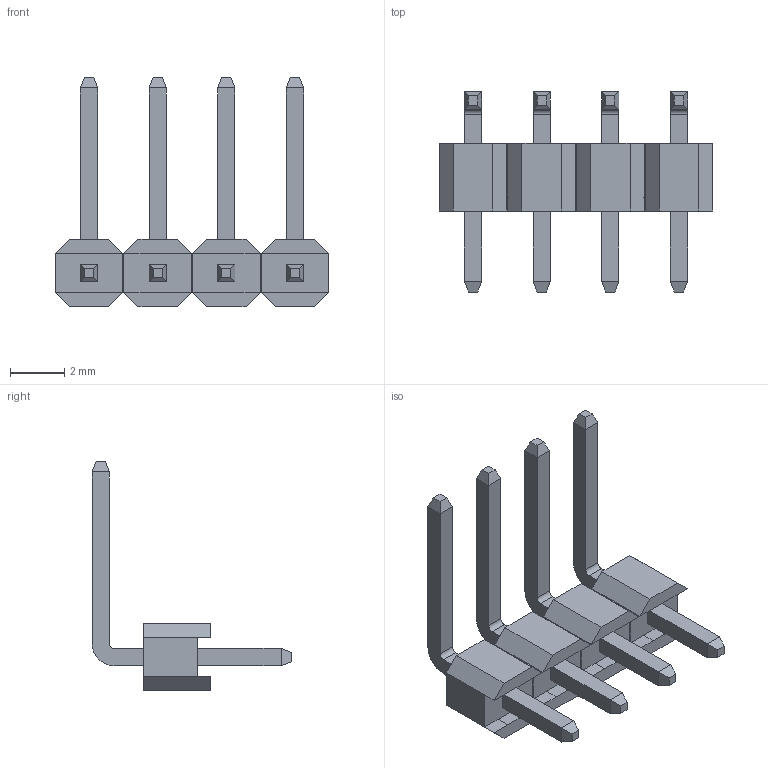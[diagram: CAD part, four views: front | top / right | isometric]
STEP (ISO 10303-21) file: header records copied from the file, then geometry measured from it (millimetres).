
FILE_DESCRIPTION (( 'STEP AP203' ), '1' );
FILE_NAME ('PZ254-1-04-WR-2.5-XX(L7.4) (2.54双排 反弯排针 塑高2.5-HCTL).STEP', '2026-04-30T09:17:06', ( '' ), ( '' ), 'SwSTEP 2.0', 'SolidWorks 2025', '' );
FILE_SCHEMA (( 'CONFIG_CONTROL_DESIGN' ));
Length unit declared in the file: millimetre
Products named in the file (1): PZ254-1-04-WR-2.5-XX(L7.4) (2.54双排 反弯排针 塑高2.5-HCTL)
Bounding box: 10.12 x 7.4 x 8.5 mm (x, y, z)
Volume: 69.5 mm3; surface area: 276.2 mm2
Topology: 7 solids, 7 shells, 178 faces, 420 edges, 264 vertices
Faces by surface type: plane 170, cylinder 8
Entity records: 5021 total; most frequent: CARTESIAN_POINT 863, ORIENTED_EDGE 840, DIRECTION 794, EDGE_CURVE 420, VECTOR 404, LINE 404, VERTEX_POINT 264, AXIS2_PLACEMENT_3D 195
